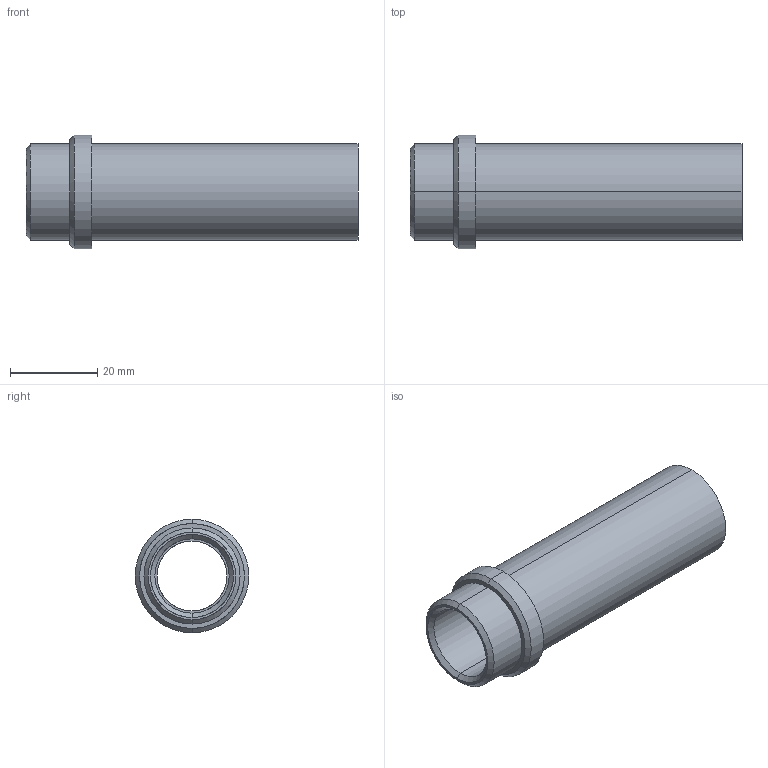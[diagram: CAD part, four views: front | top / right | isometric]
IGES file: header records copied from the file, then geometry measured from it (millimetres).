
Start section: START RECORD GO HERE.
Global section: file name: 358-16x76.igs; native system: DASSAULT SYSTEMES CATIA V5 R20 - www.3ds.com; preprocessor: CATIA Version 5 Release 20 ; author: Utente; organization: NB04-ASUS; date: 20210408.155320; units: millimetre
Bounding box: 76 x 26 x 26 mm (x, y, z)
Surface area: 9771.4 mm2 (no closed solid volume)
Topology: 0 solids, 0 shells, 23 faces, 148 edges, 148 vertices
Faces by surface type: revolution 18, plane 5
